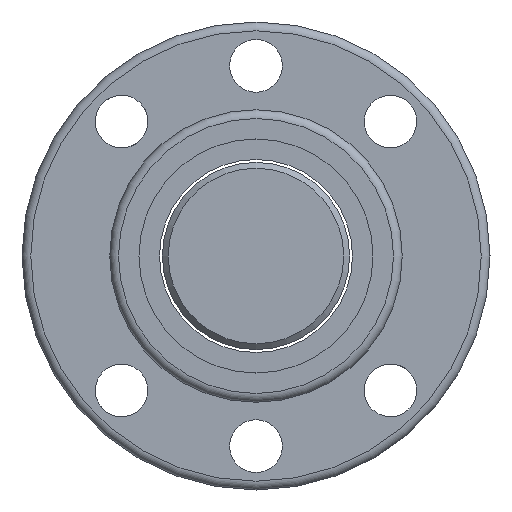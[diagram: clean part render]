
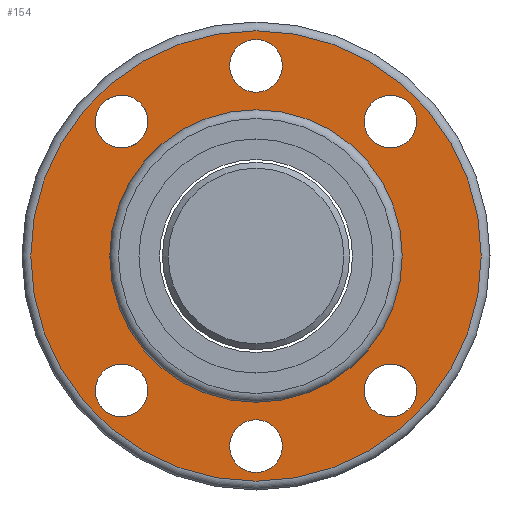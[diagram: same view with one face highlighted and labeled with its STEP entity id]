
A CAD part, left-side view. The second image highlights one B-rep face of the part: STEP entity #154.
In plain terms, the highlighted planar face has unit normal (-1, 0, 0).
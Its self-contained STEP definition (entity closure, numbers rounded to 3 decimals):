
#125=PLANE('',#601);
#138=FACE_OUTER_BOUND('',#284,.T.);
#154=ADVANCED_FACE('',(#202,#203,#204,#205,#206,#207,#208,#138),#125,.T.);
#202=FACE_BOUND('',#277,.T.);
#203=FACE_BOUND('',#278,.T.);
#204=FACE_BOUND('',#279,.T.);
#205=FACE_BOUND('',#280,.T.);
#206=FACE_BOUND('',#281,.T.);
#207=FACE_BOUND('',#282,.T.);
#208=FACE_BOUND('',#283,.T.);
#277=EDGE_LOOP('',(#367));
#278=EDGE_LOOP('',(#368));
#279=EDGE_LOOP('',(#369));
#280=EDGE_LOOP('',(#370));
#281=EDGE_LOOP('',(#371));
#282=EDGE_LOOP('',(#372));
#283=EDGE_LOOP('',(#373));
#284=EDGE_LOOP('',(#374));
#367=ORIENTED_EDGE('',*,*,#502,.F.);
#368=ORIENTED_EDGE('',*,*,#503,.F.);
#369=ORIENTED_EDGE('',*,*,#504,.F.);
#370=ORIENTED_EDGE('',*,*,#505,.F.);
#371=ORIENTED_EDGE('',*,*,#506,.F.);
#372=ORIENTED_EDGE('',*,*,#507,.F.);
#373=ORIENTED_EDGE('',*,*,#508,.T.);
#374=ORIENTED_EDGE('',*,*,#500,.F.);
#455=VERTEX_POINT('',#850);
#457=VERTEX_POINT('',#855);
#458=VERTEX_POINT('',#857);
#459=VERTEX_POINT('',#859);
#460=VERTEX_POINT('',#861);
#461=VERTEX_POINT('',#863);
#462=VERTEX_POINT('',#865);
#463=VERTEX_POINT('',#867);
#500=EDGE_CURVE('',#455,#455,#545,.T.);
#502=EDGE_CURVE('',#457,#457,#547,.T.);
#503=EDGE_CURVE('',#458,#458,#548,.T.);
#504=EDGE_CURVE('',#459,#459,#549,.T.);
#505=EDGE_CURVE('',#460,#460,#550,.T.);
#506=EDGE_CURVE('',#461,#461,#551,.T.);
#507=EDGE_CURVE('',#462,#462,#552,.T.);
#508=EDGE_CURVE('',#463,#463,#553,.T.);
#545=CIRCLE('',#591,38.5);
#547=CIRCLE('',#594,4.5);
#548=CIRCLE('',#595,4.5);
#549=CIRCLE('',#596,4.5);
#550=CIRCLE('',#597,4.5);
#551=CIRCLE('',#598,4.5);
#552=CIRCLE('',#599,4.5);
#553=CIRCLE('',#600,25.);
#591=AXIS2_PLACEMENT_3D('',#849,#678,#679);
#594=AXIS2_PLACEMENT_3D('',#854,#684,#685);
#595=AXIS2_PLACEMENT_3D('',#856,#686,#687);
#596=AXIS2_PLACEMENT_3D('',#858,#688,#689);
#597=AXIS2_PLACEMENT_3D('',#860,#690,#691);
#598=AXIS2_PLACEMENT_3D('',#862,#692,#693);
#599=AXIS2_PLACEMENT_3D('',#864,#694,#695);
#600=AXIS2_PLACEMENT_3D('',#866,#696,#697);
#601=AXIS2_PLACEMENT_3D('',#868,#698,#699);
#678=DIRECTION('',(1.,0.,0.));
#679=DIRECTION('',(0.,1.,0.));
#684=DIRECTION('',(-1.,0.,0.));
#685=DIRECTION('',(0.,-1.,0.));
#686=DIRECTION('',(-1.,0.,0.));
#687=DIRECTION('',(0.,-1.,0.));
#688=DIRECTION('',(-1.,0.,0.));
#689=DIRECTION('',(0.,-1.,0.));
#690=DIRECTION('',(-1.,0.,0.));
#691=DIRECTION('',(0.,-1.,0.));
#692=DIRECTION('',(-1.,0.,0.));
#693=DIRECTION('',(0.,-1.,0.));
#694=DIRECTION('',(-1.,0.,0.));
#695=DIRECTION('',(0.,-1.,0.));
#696=DIRECTION('',(1.,0.,0.));
#697=DIRECTION('',(0.,1.,0.));
#698=DIRECTION('',(-1.,0.,0.));
#699=DIRECTION('',(0.,-1.,0.));
#849=CARTESIAN_POINT('',(-27.,0.,0.));
#850=CARTESIAN_POINT('',(-27.,38.5,0.));
#854=CARTESIAN_POINT('',(-27.,22.981,22.981));
#855=CARTESIAN_POINT('',(-27.,18.481,22.981));
#856=CARTESIAN_POINT('',(-27.,22.981,-22.981));
#857=CARTESIAN_POINT('',(-27.,18.481,-22.981));
#858=CARTESIAN_POINT('',(-27.,0.,-32.5));
#859=CARTESIAN_POINT('',(-27.,-4.5,-32.5));
#860=CARTESIAN_POINT('',(-27.,-22.981,-22.981));
#861=CARTESIAN_POINT('',(-27.,-27.481,-22.981));
#862=CARTESIAN_POINT('',(-27.,-22.981,22.981));
#863=CARTESIAN_POINT('',(-27.,-27.481,22.981));
#864=CARTESIAN_POINT('',(-27.,0.,32.5));
#865=CARTESIAN_POINT('',(-27.,-4.5,32.5));
#866=CARTESIAN_POINT('',(-27.,0.,0.));
#867=CARTESIAN_POINT('',(-27.,25.,0.));
#868=CARTESIAN_POINT('',(-27.,31.75,0.));
